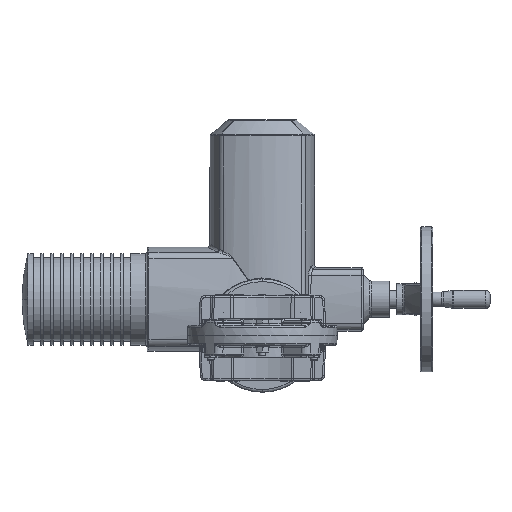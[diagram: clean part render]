
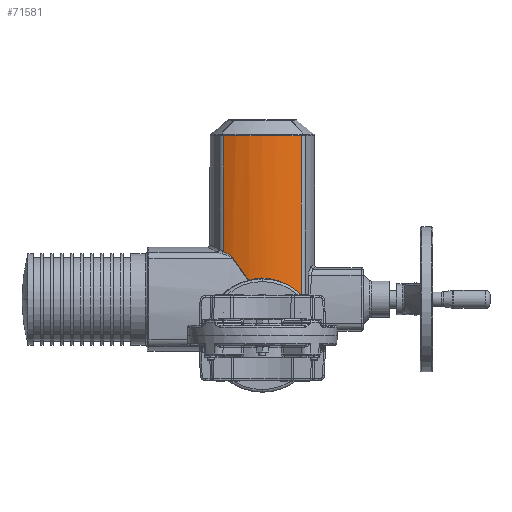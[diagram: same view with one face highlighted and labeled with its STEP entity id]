
A CAD part, front view. The second image highlights one B-rep face of the part: STEP entity #71581.
In plain terms, the highlighted cylindrical face has radius 100 mm (diameter 200 mm), a partial arc.
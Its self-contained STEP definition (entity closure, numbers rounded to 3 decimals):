
#2968 = CARTESIAN_POINT ( 'NONE',  ( -33.985, 320.951, 87.329 ) ) ;
#7780 = CARTESIAN_POINT ( 'NONE',  ( -3.436, 315.052, 63.155 ) ) ;
#8218 = CARTESIAN_POINT ( 'NONE',  ( 23.652, 317.836, 57.129 ) ) ;
#8559 = CARTESIAN_POINT ( 'NONE',  ( 38.283, 322.617, 46.974 ) ) ;
#11645 = B_SPLINE_CURVE_WITH_KNOTS ( 'NONE', 3,
 ( #72840, #8559, #19781, #94788, #30472, #105579, #41365, #116368 ),
 .UNSPECIFIED., .F., .F.,
 ( 4, 2, 2, 4 ),
 ( 0., 0.002, 0.003, 0.007 ),
 .UNSPECIFIED. ) ;
#13300 = CARTESIAN_POINT ( 'NONE',  ( -42.042, 324.26, 92.005 ) ) ;
#13746 = CARTESIAN_POINT ( 'NONE',  ( -32.772, 320.521, 86.153 ) ) ;
#16190 = AXIS2_PLACEMENT_3D ( 'NONE', #85574, #71145, #75277 ) ;
#16249 = VECTOR ( 'NONE', #57693, 1000. ) ;
#17546 = CARTESIAN_POINT ( 'NONE',  ( 36.396, 321.858, 47.439 ) ) ;
#17992 = CARTESIAN_POINT ( 'NONE',  ( 37.791, 322.416, 47.097 ) ) ;
#18510 = CARTESIAN_POINT ( 'NONE',  ( 1.316, 314.981, 63.304 ) ) ;
#18955 = CARTESIAN_POINT ( 'NONE',  ( 25.164, 318.217, 56.268 ) ) ;
#19781 = CARTESIAN_POINT ( 'NONE',  ( 38.764, 322.818, 46.82 ) ) ;
#23979 = CARTESIAN_POINT ( 'NONE',  ( -26.44, 318.376, 77.158 ) ) ;
#24484 = CARTESIAN_POINT ( 'NONE',  ( -32.064, 320.28, 85.242 ) ) ;
#24795 = CARTESIAN_POINT ( 'NONE',  ( 43.041, 324.737, 237.75 ) ) ;
#26573 = VERTEX_POINT ( 'NONE', #78638 ) ;
#28511 = CARTESIAN_POINT ( 'NONE',  ( -43.041, 324.737, 237.75 ) ) ;
#29215 = CARTESIAN_POINT ( 'NONE',  ( 7.186, 315.252, 62.737 ) ) ;
#29680 = CARTESIAN_POINT ( 'NONE',  ( 29.519, 319.438, 53.45 ) ) ;
#30115 = VERTEX_POINT ( 'NONE', #83140 ) ;
#30472 = CARTESIAN_POINT ( 'NONE',  ( 40.164, 323.419, 46.232 ) ) ;
#31497 = B_SPLINE_CURVE_WITH_KNOTS ( 'NONE', 3,
 ( #130873, #13300, #45618, #120587, #56466, #131357, #67227, #2968, #78004, #13746, #88744, #24484 ),
 .UNSPECIFIED., .F., .F.,
 ( 4, 2, 2, 2, 2, 4 ),
 ( 0., 0.003, 0.007, 0.01, 0.012, 0.014 ),
 .UNSPECIFIED. ) ;
#32073 = ORIENTED_EDGE ( 'NONE', *, *, #79431, .T. ) ;
#32354 = ORIENTED_EDGE ( 'NONE', *, *, #99584, .T. ) ;
#38169 = ORIENTED_EDGE ( 'NONE', *, *, #124522, .T. ) ;
#38819 = ORIENTED_EDGE ( 'NONE', *, *, #96328, .T. ) ;
#39474 = VERTEX_POINT ( 'NONE', #99416 ) ;
#39644 = CARTESIAN_POINT ( 'NONE',  ( -14.967, 316.126, 60.881 ) ) ;
#39734 = DIRECTION ( 'NONE',  ( 0., 0., -1. ) ) ;
#40098 = CARTESIAN_POINT ( 'NONE',  ( 10.68, 315.565, 62.077 ) ) ;
#40539 = CARTESIAN_POINT ( 'NONE',  ( 34.788, 321.23, 49.074 ) ) ;
#41365 = CARTESIAN_POINT ( 'NONE',  ( 42.296, 324.381, 44.907 ) ) ;
#42233 = B_SPLINE_CURVE_WITH_KNOTS ( 'NONE', 3,
 ( #17546, #81784, #82245, #17992 ),
 .UNSPECIFIED., .F., .F.,
 ( 4, 4 ),
 ( 0.008, 0.009 ),
 .UNSPECIFIED. ) ;
#43203 = CARTESIAN_POINT ( 'NONE',  ( -43.041, 324.737, 220.035 ) ) ;
#45585 = CARTESIAN_POINT ( 'NONE',  ( -20.733, 316.999, 69.042 ) ) ;
#45618 = CARTESIAN_POINT ( 'NONE',  ( -41.052, 323.808, 91.582 ) ) ;
#48179 = B_SPLINE_CURVE_WITH_KNOTS ( 'NONE', 3,
 ( #87793, #23979, #45585, #120551 ),
 .UNSPECIFIED., .F., .F.,
 ( 4, 4 ),
 ( 0., 0.03 ),
 .UNSPECIFIED. ) ;
#50330 = EDGE_CURVE ( 'NONE', #58658, #26573, #79230, .T. ) ;
#50885 = CARTESIAN_POINT ( 'NONE',  ( 15.204, 316.137, 60.862 ) ) ;
#51678 = AXIS2_PLACEMENT_3D ( 'NONE', #103895, #39734, #114718 ) ;
#56466 = CARTESIAN_POINT ( 'NONE',  ( -38.126, 322.548, 90.142 ) ) ;
#57693 = DIRECTION ( 'NONE',  ( 0., 0., -1. ) ) ;
#58658 = VERTEX_POINT ( 'NONE', #43203 ) ;
#59091 = CARTESIAN_POINT ( 'NONE',  ( 43.041, 324.737, 220.035 ) ) ;
#61198 = CARTESIAN_POINT ( 'NONE',  ( -10.443, 315.52, 62.174 ) ) ;
#61661 = CARTESIAN_POINT ( 'NONE',  ( 20.562, 317.131, 58.699 ) ) ;
#64890 = B_SPLINE_CURVE_WITH_KNOTS ( 'NONE', 3,
 ( #39644, #103824, #61198, #136085, #71988, #7780, #82768, #18510, #93524, #29215, #104270, #40098, #115081, #50885, #125816, #61661, #136559, #72464, #8218, #83225, #18955, #93986, #29680, #104751, #40539, #115540 ),
 .UNSPECIFIED., .F., .F.,
 ( 4, 2, 2, 2, 2, 2, 2, 2, 2, 2, 2, 2, 4 ),
 ( 0., 0.007, 0.011, 0.014, 0.021, 0.025, 0.028, 0.035, 0.039, 0.041, 0.042, 0.05, 0.057 ),
 .UNSPECIFIED. ) ;
#67227 = CARTESIAN_POINT ( 'NONE',  ( -35.292, 321.43, 88.385 ) ) ;
#69229 = VERTEX_POINT ( 'NONE', #116570 ) ;
#71145 = DIRECTION ( 'NONE',  ( 0., 0., -1. ) ) ;
#71581 = ADVANCED_FACE ( 'NONE', ( #114883 ), #129890, .T. ) ;
#71988 = CARTESIAN_POINT ( 'NONE',  ( -5.794, 315.161, 62.927 ) ) ;
#72464 = CARTESIAN_POINT ( 'NONE',  ( 23.143, 317.713, 57.404 ) ) ;
#72840 = CARTESIAN_POINT ( 'NONE',  ( 37.791, 322.416, 47.097 ) ) ;
#75277 = DIRECTION ( 'NONE',  ( -1., 0., 0. ) ) ;
#75373 = CARTESIAN_POINT ( 'NONE',  ( -14.967, 316.126, 60.881 ) ) ;
#77714 = EDGE_CURVE ( 'NONE', #129844, #30115, #101741, .T. ) ;
#78004 = CARTESIAN_POINT ( 'NONE',  ( -33.565, 320.8, 86.957 ) ) ;
#78638 = CARTESIAN_POINT ( 'NONE',  ( -43.041, 324.737, 92.391 ) ) ;
#79230 = LINE ( 'NONE', #28511, #132785 ) ;
#79431 = EDGE_CURVE ( 'NONE', #129844, #58658, #84159, .T. ) ;
#80076 = EDGE_CURVE ( 'NONE', #39474, #122391, #48179, .T. ) ;
#81784 = CARTESIAN_POINT ( 'NONE',  ( 36.862, 322.041, 47.327 ) ) ;
#82245 = CARTESIAN_POINT ( 'NONE',  ( 37.328, 322.227, 47.213 ) ) ;
#82768 = CARTESIAN_POINT ( 'NONE',  ( -2.243, 315.018, 63.226 ) ) ;
#83140 = CARTESIAN_POINT ( 'NONE',  ( 43.041, 324.737, 44.194 ) ) ;
#83225 = CARTESIAN_POINT ( 'NONE',  ( 24.662, 318.087, 56.561 ) ) ;
#84159 = CIRCLE ( 'NONE', #51678, 100. ) ;
#85574 = CARTESIAN_POINT ( 'NONE',  ( 0., 415., 237.75 ) ) ;
#86103 = ORIENTED_EDGE ( 'NONE', *, *, #50330, .T. ) ;
#87793 = CARTESIAN_POINT ( 'NONE',  ( -32.064, 320.28, 85.242 ) ) ;
#88744 = CARTESIAN_POINT ( 'NONE',  ( -32.398, 320.393, 85.723 ) ) ;
#93429 = EDGE_CURVE ( 'NONE', #122391, #135192, #64890, .T. ) ;
#93524 = CARTESIAN_POINT ( 'NONE',  ( 3.673, 315.04, 63.181 ) ) ;
#93986 = CARTESIAN_POINT ( 'NONE',  ( 27.641, 318.874, 54.766 ) ) ;
#94788 = CARTESIAN_POINT ( 'NONE',  ( 39.706, 323.219, 46.448 ) ) ;
#96328 = EDGE_CURVE ( 'NONE', #26573, #39474, #31497, .T. ) ;
#99416 = CARTESIAN_POINT ( 'NONE',  ( -32.064, 320.28, 85.242 ) ) ;
#99470 = ORIENTED_EDGE ( 'NONE', *, *, #77714, .F. ) ;
#99584 = EDGE_CURVE ( 'NONE', #135192, #69229, #42233, .T. ) ;
#101741 = LINE ( 'NONE', #24795, #16249 ) ;
#103824 = CARTESIAN_POINT ( 'NONE',  ( -12.724, 315.787, 61.609 ) ) ;
#103895 = CARTESIAN_POINT ( 'NONE',  ( 0., 415., 220.035 ) ) ;
#104270 = CARTESIAN_POINT ( 'NONE',  ( 8.354, 315.343, 62.546 ) ) ;
#104751 = CARTESIAN_POINT ( 'NONE',  ( 33.093, 320.616, 50.604 ) ) ;
#105579 = CARTESIAN_POINT ( 'NONE',  ( 41.482, 324.005, 45.502 ) ) ;
#107826 = ORIENTED_EDGE ( 'NONE', *, *, #80076, .T. ) ;
#112373 = EDGE_LOOP ( 'NONE', ( #86103, #38819, #107826, #122337, #32354, #38169, #99470, #32073 ) ) ;
#114718 = DIRECTION ( 'NONE',  ( 1., 0., 0. ) ) ;
#114883 = FACE_OUTER_BOUND ( 'NONE', #112373, .T. ) ;
#115081 = CARTESIAN_POINT ( 'NONE',  ( 11.825, 315.695, 61.802 ) ) ;
#115540 = CARTESIAN_POINT ( 'NONE',  ( 36.396, 321.858, 47.439 ) ) ;
#116368 = CARTESIAN_POINT ( 'NONE',  ( 43.041, 324.737, 44.194 ) ) ;
#116570 = CARTESIAN_POINT ( 'NONE',  ( 37.791, 322.416, 47.097 ) ) ;
#117623 = CARTESIAN_POINT ( 'NONE',  ( 36.396, 321.858, 47.439 ) ) ;
#120551 = CARTESIAN_POINT ( 'NONE',  ( -14.967, 316.126, 60.881 ) ) ;
#120587 = CARTESIAN_POINT ( 'NONE',  ( -39.094, 322.952, 90.65 ) ) ;
#122337 = ORIENTED_EDGE ( 'NONE', *, *, #93429, .T. ) ;
#122391 = VERTEX_POINT ( 'NONE', #75373 ) ;
#124522 = EDGE_CURVE ( 'NONE', #69229, #30115, #11645, .T. ) ;
#125816 = CARTESIAN_POINT ( 'NONE',  ( 17.386, 316.499, 60.082 ) ) ;
#129844 = VERTEX_POINT ( 'NONE', #59091 ) ;
#129890 = CYLINDRICAL_SURFACE ( 'NONE', #16190, 100. ) ;
#130873 = CARTESIAN_POINT ( 'NONE',  ( -43.041, 324.737, 92.391 ) ) ;
#131357 = CARTESIAN_POINT ( 'NONE',  ( -36.228, 321.787, 89.011 ) ) ;
#132785 = VECTOR ( 'NONE', #134944, 1000. ) ;
#134944 = DIRECTION ( 'NONE',  ( 0., 0., -1. ) ) ;
#135192 = VERTEX_POINT ( 'NONE', #117623 ) ;
#136085 = CARTESIAN_POINT ( 'NONE',  ( -6.964, 315.236, 62.77 ) ) ;
#136559 = CARTESIAN_POINT ( 'NONE',  ( 21.604, 317.356, 58.202 ) ) ;
